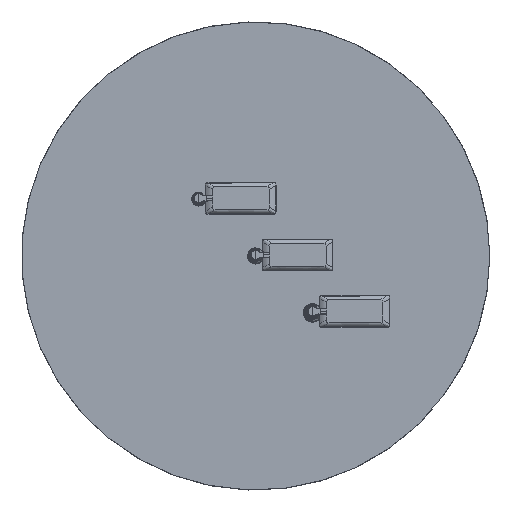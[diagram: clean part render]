
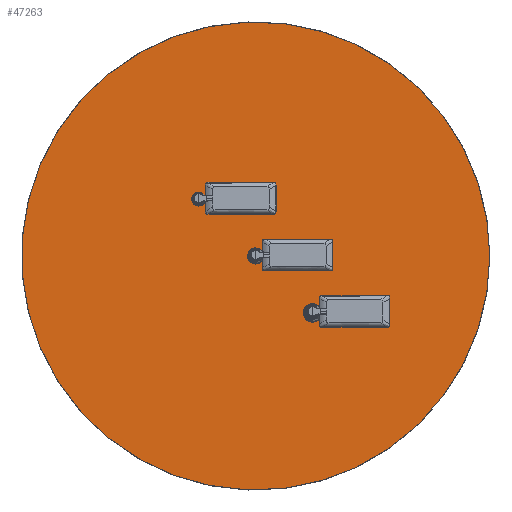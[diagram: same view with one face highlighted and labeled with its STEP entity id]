
A CAD part, top view. The second image highlights one B-rep face of the part: STEP entity #47263.
In plain terms, the highlighted free-form (B-spline) face has degree [1, 1] with [2, 2] control points.
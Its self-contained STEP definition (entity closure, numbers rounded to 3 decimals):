
#47154 = CARTESIAN_POINT ('', (2056.502, 0., 0.));
#47155 = VERTEX_POINT ('', #47154);
#47156 = CARTESIAN_POINT ('', (2056.502, 0., 0.));
#47157 = CARTESIAN_POINT ('', (2056.502, 135.032, 0.));
#47158 = CARTESIAN_POINT ('', (2043.33, 268.766, 0.));
#47159 = CARTESIAN_POINT ('', (2016.987, 401.204, 0.));
#47160 = CARTESIAN_POINT ('', (1990.643, 533.641, 0.));
#47161 = CARTESIAN_POINT ('', (1951.634, 662.236, 0.));
#47162 = CARTESIAN_POINT ('', (1899.96, 786.989, 0.));
#47163 = CARTESIAN_POINT ('', (1848.286, 911.742, 0.));
#47164 = CARTESIAN_POINT ('', (1784.938, 1030.256, 0.));
#47165 = CARTESIAN_POINT ('', (1709.919, 1142.531, 0.));
#47166 = CARTESIAN_POINT ('', (1634.899, 1254.806, 0.));
#47167 = CARTESIAN_POINT ('', (1549.648, 1358.684, 0.));
#47168 = CARTESIAN_POINT ('', (1454.166, 1454.166, 0.));
#47169 = CARTESIAN_POINT ('', (1358.684, 1549.648, 0.));
#47170 = CARTESIAN_POINT ('', (1254.806, 1634.899, 0.));
#47171 = CARTESIAN_POINT ('', (1142.531, 1709.919, 0.));
#47172 = CARTESIAN_POINT ('', (1030.256, 1784.938, 0.));
#47173 = CARTESIAN_POINT ('', (911.742, 1848.286, 0.));
#47174 = CARTESIAN_POINT ('', (786.989, 1899.96, 0.));
#47175 = CARTESIAN_POINT ('', (662.236, 1951.634, 0.));
#47176 = CARTESIAN_POINT ('', (533.641, 1990.643, 0.));
#47177 = CARTESIAN_POINT ('', (401.204, 2016.987, 0.));
#47178 = CARTESIAN_POINT ('', (268.766, 2043.33, 0.));
#47179 = CARTESIAN_POINT ('', (135.032, 2056.502, 0.));
#47180 = CARTESIAN_POINT ('', (0., 2056.502, 0.));
#47181 = CARTESIAN_POINT ('', (-135.032, 2056.502, 0.));
#47182 = CARTESIAN_POINT ('', (-268.766, 2043.33, 0.));
#47183 = CARTESIAN_POINT ('', (-401.204, 2016.987, 0.));
#47184 = CARTESIAN_POINT ('', (-533.641, 1990.643, 0.));
#47185 = CARTESIAN_POINT ('', (-662.236, 1951.634, 0.));
#47186 = CARTESIAN_POINT ('', (-786.989, 1899.96, 0.));
#47187 = CARTESIAN_POINT ('', (-911.742, 1848.286, 0.));
#47188 = CARTESIAN_POINT ('', (-1030.256, 1784.938, 0.));
#47189 = CARTESIAN_POINT ('', (-1142.531, 1709.919, 0.));
#47190 = CARTESIAN_POINT ('', (-1254.806, 1634.899, 0.));
#47191 = CARTESIAN_POINT ('', (-1358.684, 1549.648, 0.));
#47192 = CARTESIAN_POINT ('', (-1454.166, 1454.166, 0.));
#47193 = CARTESIAN_POINT ('', (-1549.648, 1358.684, 0.));
#47194 = CARTESIAN_POINT ('', (-1634.899, 1254.806, 0.));
#47195 = CARTESIAN_POINT ('', (-1709.919, 1142.531, 0.));
#47196 = CARTESIAN_POINT ('', (-1784.938, 1030.256, 0.));
#47197 = CARTESIAN_POINT ('', (-1848.286, 911.742, 0.));
#47198 = CARTESIAN_POINT ('', (-1899.96, 786.989, 0.));
#47199 = CARTESIAN_POINT ('', (-1951.634, 662.236, 0.));
#47200 = CARTESIAN_POINT ('', (-1990.643, 533.641, 0.));
#47201 = CARTESIAN_POINT ('', (-2016.987, 401.204, 0.));
#47202 = CARTESIAN_POINT ('', (-2043.33, 268.766, 0.));
#47203 = CARTESIAN_POINT ('', (-2056.502, 135.032, 0.));
#47204 = CARTESIAN_POINT ('', (-2056.502, 0., 0.));
#47205 = CARTESIAN_POINT ('', (-2056.502, -135.032, 0.));
#47206 = CARTESIAN_POINT ('', (-2043.33, -268.766, 0.));
#47207 = CARTESIAN_POINT ('', (-2016.987, -401.204, 0.));
#47208 = CARTESIAN_POINT ('', (-1990.643, -533.641, 0.));
#47209 = CARTESIAN_POINT ('', (-1951.634, -662.236, 0.));
#47210 = CARTESIAN_POINT ('', (-1899.96, -786.989, 0.));
#47211 = CARTESIAN_POINT ('', (-1848.286, -911.742, 0.));
#47212 = CARTESIAN_POINT ('', (-1784.938, -1030.256, 0.));
#47213 = CARTESIAN_POINT ('', (-1709.919, -1142.531, 0.));
#47214 = CARTESIAN_POINT ('', (-1634.899, -1254.806, 0.));
#47215 = CARTESIAN_POINT ('', (-1549.648, -1358.684, 0.));
#47216 = CARTESIAN_POINT ('', (-1454.166, -1454.166, 0.));
#47217 = CARTESIAN_POINT ('', (-1358.684, -1549.648, 0.));
#47218 = CARTESIAN_POINT ('', (-1254.806, -1634.899, 0.));
#47219 = CARTESIAN_POINT ('', (-1142.531, -1709.919, 0.));
#47220 = CARTESIAN_POINT ('', (-1030.256, -1784.938, 0.));
#47221 = CARTESIAN_POINT ('', (-911.742, -1848.286, 0.));
#47222 = CARTESIAN_POINT ('', (-786.989, -1899.96, 0.));
#47223 = CARTESIAN_POINT ('', (-662.236, -1951.634, 0.));
#47224 = CARTESIAN_POINT ('', (-533.641, -1990.643, 0.));
#47225 = CARTESIAN_POINT ('', (-401.204, -2016.987, 0.));
#47226 = CARTESIAN_POINT ('', (-268.766, -2043.33, 0.));
#47227 = CARTESIAN_POINT ('', (-135.032, -2056.502, 0.));
#47228 = CARTESIAN_POINT ('', (0., -2056.502, 0.));
#47229 = CARTESIAN_POINT ('', (135.032, -2056.502, 0.));
#47230 = CARTESIAN_POINT ('', (268.766, -2043.33, 0.));
#47231 = CARTESIAN_POINT ('', (401.204, -2016.987, 0.));
#47232 = CARTESIAN_POINT ('', (533.641, -1990.643, 0.));
#47233 = CARTESIAN_POINT ('', (662.236, -1951.634, 0.));
#47234 = CARTESIAN_POINT ('', (786.989, -1899.96, 0.));
#47235 = CARTESIAN_POINT ('', (911.742, -1848.286, 0.));
#47236 = CARTESIAN_POINT ('', (1030.256, -1784.938, 0.));
#47237 = CARTESIAN_POINT ('', (1142.531, -1709.919, 0.));
#47238 = CARTESIAN_POINT ('', (1254.806, -1634.899, 0.));
#47239 = CARTESIAN_POINT ('', (1358.684, -1549.648, 0.));
#47240 = CARTESIAN_POINT ('', (1454.166, -1454.166, 0.));
#47241 = CARTESIAN_POINT ('', (1549.648, -1358.684, 0.));
#47242 = CARTESIAN_POINT ('', (1634.899, -1254.806, 0.));
#47243 = CARTESIAN_POINT ('', (1709.919, -1142.531, 0.));
#47244 = CARTESIAN_POINT ('', (1784.938, -1030.256, 0.));
#47245 = CARTESIAN_POINT ('', (1848.286, -911.742, 0.));
#47246 = CARTESIAN_POINT ('', (1899.96, -786.989, 0.));
#47247 = CARTESIAN_POINT ('', (1951.634, -662.236, 0.));
#47248 = CARTESIAN_POINT ('', (1990.643, -533.641, 0.));
#47249 = CARTESIAN_POINT ('', (2016.987, -401.204, 0.));
#47250 = CARTESIAN_POINT ('', (2043.33, -268.766, 0.));
#47251 = CARTESIAN_POINT ('', (2056.502, -135.032, 0.));
#47252 = CARTESIAN_POINT ('', (2056.502, 0., 0.));
#47253 = B_SPLINE_CURVE_WITH_KNOTS ('', 3, (#47156, #47157, #47158, #47159, #47160, #47161, #47162, #47163, #47164, #47165, #47166, #47167, #47168, #47169, #47170, #47171, #47172, #47173, #47174, #47175, #47176, #47177, #47178, #47179, #47180, #47181, #47182, #47183, #47184, #47185, #47186, #47187, #47188, #47189, #47190, #47191, #47192, #47193, #47194, #47195, #47196, #47197, #47198, #47199, #47200, #47201, #47202, #47203, #47204, #47205, #47206, #47207, #47208, #47209, #47210, #47211, #47212, #47213, #47214, #47215, #47216, #47217, #47218, #47219, #47220, #47221, #47222, #47223, #47224, #47225, #47226, #47227, #47228, #47229, #47230, #47231, #47232, #47233, #47234, #47235, #47236, #47237, #47238, #47239, #47240, #47241, #47242, #47243, #47244, #47245, #47246, #47247, #47248, #47249, #47250, #47251, #47252), .UNSPECIFIED., .T., .U., (4, 3, 3, 3, 3, 3, 3, 3, 3, 3, 3, 3, 3, 3, 3, 3, 3, 3, 3, 3, 3, 3, 3, 3, 3, 3, 3, 3, 3, 3, 3, 3, 4), (0., 0.031, 0.063, 0.094, 0.125, 0.156, 0.188, 0.219, 0.25, 0.281, 0.313, 0.344, 0.375, 0.406, 0.438, 0.469, 0.5, 0.531, 0.563, 0.594, 0.625, 0.656, 0.688, 0.719, 0.75, 0.781, 0.813, 0.844, 0.875, 0.906, 0.938, 0.969, 1.), .UNSPECIFIED.);
#47254 = EDGE_CURVE ('', #47155, #47155, #47253, .T.);
#47255 = ORIENTED_EDGE ('', *, *, #47254, .T.);
#47256 = EDGE_LOOP ('', (#47255));
#47257 = FACE_OUTER_BOUND ('', #47256, .T.);
#47258 = CARTESIAN_POINT ('', (-2081.18, -2081.18, 0.));
#47259 = CARTESIAN_POINT ('', (-2081.18, 2081.18, 0.));
#47260 = CARTESIAN_POINT ('', (2081.18, -2081.18, 0.));
#47261 = CARTESIAN_POINT ('', (2081.18, 2081.18, 0.));
#47262 = B_SPLINE_SURFACE_WITH_KNOTS ('', 1, 1, ((#47258, #47259), (#47260, #47261)), .UNSPECIFIED., .F., .F., .U., (2, 2), (2, 2), (0., 1.), (0., 1.), .UNSPECIFIED.);
#47263 = ADVANCED_FACE ('', (#47257), #47262, .T.);
